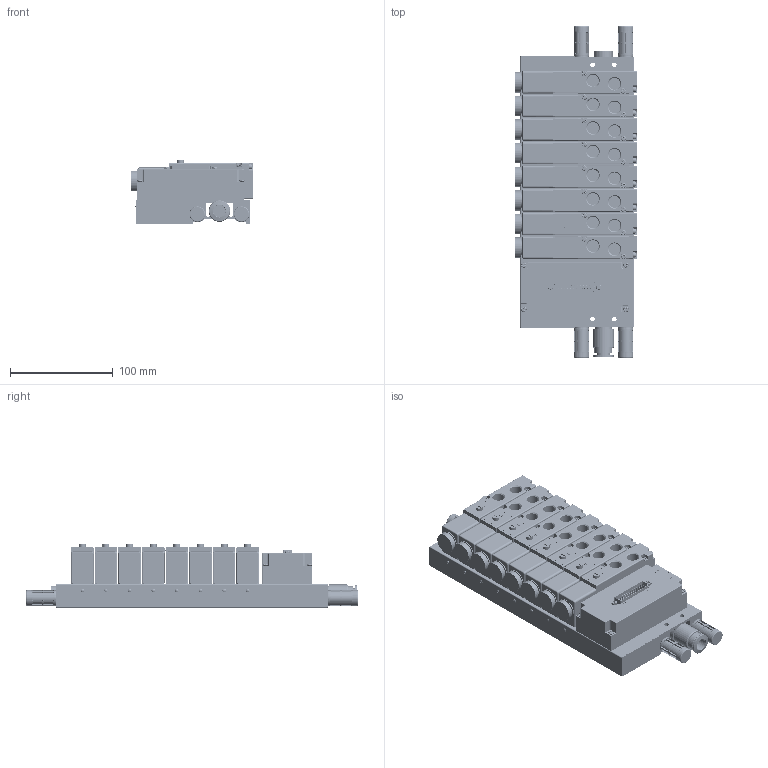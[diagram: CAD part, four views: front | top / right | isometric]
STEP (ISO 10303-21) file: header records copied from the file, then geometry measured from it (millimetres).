
FILE_DESCRIPTION (( 'STEP AP203' ), '1' );
FILE_NAME ('FV-A42-M528-S12-M1-25V2.STEP', '2024-08-28T07:03:07', ( 'L' ), ( '' ), 'SwSTEP 2.0', 'SolidWorks 2019', '' );
FILE_SCHEMA (( 'CONFIG_CONTROL_DESIGN' ));
Length unit declared in the file: millimetre
Products named in the file (28): 200_________id137_x_t.stp.STEP; FV-A42-M52.STEP; 32MM_______id191_x_t.stp.STEP; U-1_4-30.stp; FV-A42-M5210-C6-S12-MPL.stp.STEP; FV-A42-M528-S12-M1-25V2; FV-A42-8P.step; 32MM_______id245_x_t.stp.STEP; FV-A42-M52-12-C6-L2-S10-T18_id218_x_t.stp.STEP; ____1_id164_x_t.stp.STEP; _4V210-08_BY__id110_x_t.stp.STEP; QS-G1_4-12-I.stp; B-1_4.stp; FV-M1-25.step
Assembly tree (72 placements, depth 4):
  FV-A42-M528-S12-M1-25V2
    FV-A42-8P.step
    FV-A42-M52.STEP
      FV-A42-M5210-C6-S12-MPL.stp.STEP
        32MM_______id245_x_t.stp.STEP
        FV-A42-M52-12-C6-L2-S10-T18_id218_x_t.stp.STEP
        32MM_______id191_x_t.stp.STEP
        ____1_id164_x_t.stp.STEP
        200_________id137_x_t.stp.STEP
        _4V210-08_BY__id110_x_t.stp.STEP
    FV-M1-25.step
    QS-G1_4-12-I.stp
    B-1_4.stp
    U-1_4-30.stp  x4
    FV-A42-M52.STEP
      FV-A42-M5210-C6-S12-MPL.stp.STEP
        32MM_______id245_x_t.stp.STEP
        FV-A42-M52-12-C6-L2-S10-T18_id218_x_t.stp.STEP
        32MM_______id191_x_t.stp.STEP
        ____1_id164_x_t.stp.STEP
        200_________id137_x_t.stp.STEP
        _4V210-08_BY__id110_x_t.stp.STEP
    FV-A42-M52.STEP
      FV-A42-M5210-C6-S12-MPL.stp.STEP
        32MM_______id245_x_t.stp.STEP
        FV-A42-M52-12-C6-L2-S10-T18_id218_x_t.stp.STEP
        32MM_______id191_x_t.stp.STEP
        ____1_id164_x_t.stp.STEP
        200_________id137_x_t.stp.STEP
        _4V210-08_BY__id110_x_t.stp.STEP
    FV-A42-M52.STEP
      FV-A42-M5210-C6-S12-MPL.stp.STEP
        32MM_______id245_x_t.stp.STEP
        FV-A42-M52-12-C6-L2-S10-T18_id218_x_t.stp.STEP
        32MM_______id191_x_t.stp.STEP
        ____1_id164_x_t.stp.STEP
        200_________id137_x_t.stp.STEP
        _4V210-08_BY__id110_x_t.stp.STEP
    FV-A42-M52.STEP
      FV-A42-M5210-C6-S12-MPL.stp.STEP
        32MM_______id245_x_t.stp.STEP
        FV-A42-M52-12-C6-L2-S10-T18_id218_x_t.stp.STEP
        32MM_______id191_x_t.stp.STEP
        ____1_id164_x_t.stp.STEP
        200_________id137_x_t.stp.STEP
        _4V210-08_BY__id110_x_t.stp.STEP
    FV-A42-M52.STEP
      FV-A42-M5210-C6-S12-MPL.stp.STEP
        32MM_______id245_x_t.stp.STEP
        FV-A42-M52-12-C6-L2-S10-T18_id218_x_t.stp.STEP
        32MM_______id191_x_t.stp.STEP
        ____1_id164_x_t.stp.STEP
        200_________id137_x_t.stp.STEP
        _4V210-08_BY__id110_x_t.stp.STEP
    FV-A42-M52.STEP
      FV-A42-M5210-C6-S12-MPL.stp.STEP
        32MM_______id245_x_t.stp.STEP
        FV-A42-M52-12-C6-L2-S10-T18_id218_x_t.stp.STEP
        32MM_______id191_x_t.stp.STEP
        ____1_id164_x_t.stp.STEP
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Bounding box: 117.8 x 323.1 x 62.1 mm (x, y, z)
Volume: 1119626.1 mm3; surface area: 438721.1 mm2
Topology: 56 solids, 56 shells, 6853 faces, 17618 edges, 10902 vertices
Faces by surface type: plane 2944, cylinder 2693, torus 395, cone 288, sphere 270, bspline 263
Entity records: 114917 total; most frequent: CARTESIAN_POINT 27746, ORIENTED_EDGE 17466, DIRECTION 17449, EDGE_CURVE 8733, AXIS2_PLACEMENT_3D 6125, VERTEX_POINT 5499, LINE 5199, VECTOR 5199
